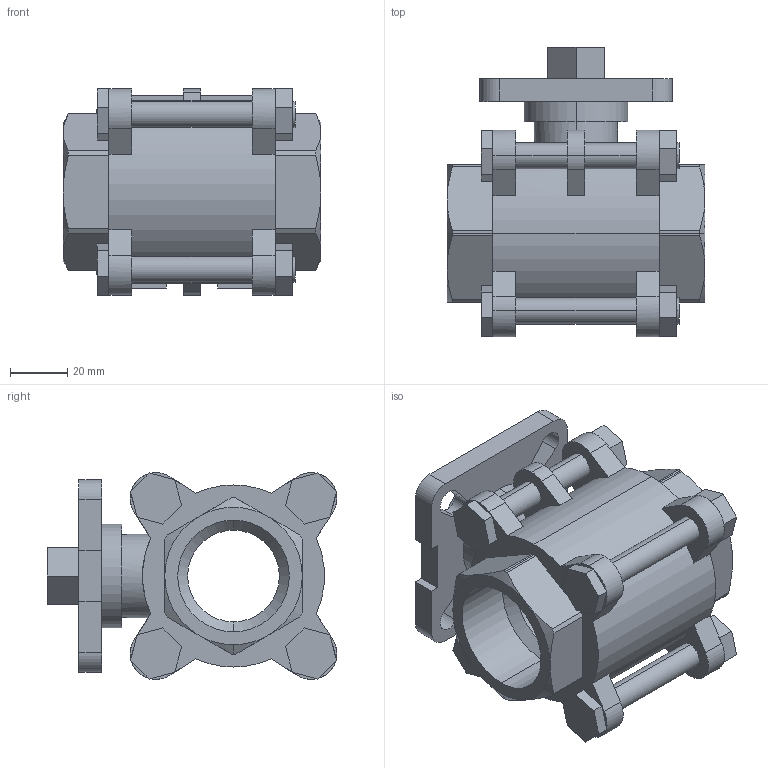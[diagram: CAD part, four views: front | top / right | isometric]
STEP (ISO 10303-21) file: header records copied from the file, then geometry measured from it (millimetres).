
FILE_DESCRIPTION (( 'STEP AP203' ), '1' );
FILE_NAME ('C3.622I0320FVPB0.STEP', '2018-10-12T14:44:28', ( '' ), ( '' ), 'SwSTEP 2.0', 'SolidWorks 2014', '' );
FILE_SCHEMA (( 'CONFIG_CONTROL_DESIGN' ));
Length unit declared in the file: millimetre
Products named in the file (1): C3.622I0320FVPB0
Bounding box: 90 x 101.03 x 72.09 mm (x, y, z)
Volume: 242811.9 mm3; surface area: 56170.9 mm2
Topology: 1 solids, 1 shells, 287 faces, 740 edges, 465 vertices
Faces by surface type: plane 192, cylinder 77, cone 18
Entity records: 8972 total; most frequent: CARTESIAN_POINT 1755, DIRECTION 1505, ORIENTED_EDGE 1480, EDGE_CURVE 740, AXIS2_PLACEMENT_3D 507, VECTOR 491, LINE 491, VERTEX_POINT 465
